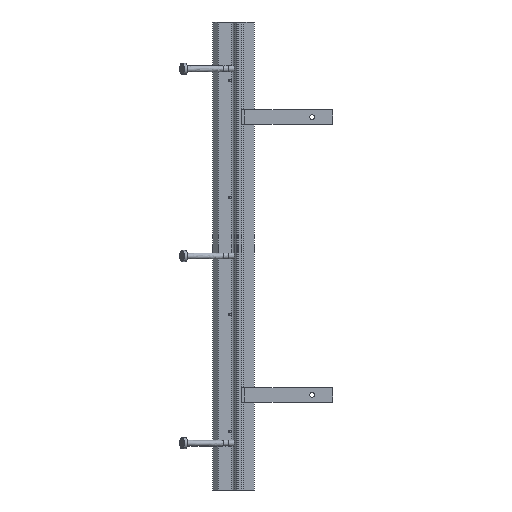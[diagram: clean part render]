
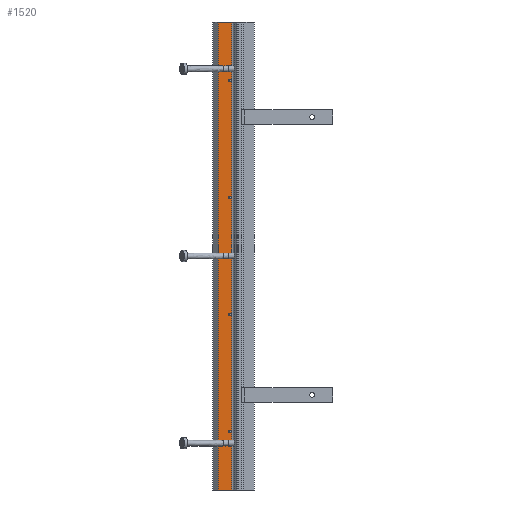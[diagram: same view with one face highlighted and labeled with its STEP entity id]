
A CAD part, left-side view. The second image highlights one B-rep face of the part: STEP entity #1520.
In plain terms, the highlighted planar face has unit normal (-1, 0, 0) as drawn and (1, 0, 0) by its records, which use the part's own axes.
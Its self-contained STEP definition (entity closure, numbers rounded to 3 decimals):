
#108=FACE_BOUND('',#304,.T.);
#109=FACE_BOUND('',#305,.T.);
#110=FACE_BOUND('',#306,.T.);
#111=FACE_BOUND('',#307,.T.);
#144=PLANE('',#1667);
#204=FACE_OUTER_BOUND('',#303,.T.);
#303=EDGE_LOOP('',(#1133,#1134,#1135,#1136));
#304=EDGE_LOOP('',(#1137));
#305=EDGE_LOOP('',(#1138));
#306=EDGE_LOOP('',(#1139));
#307=EDGE_LOOP('',(#1140));
#422=LINE('',#2311,#555);
#435=LINE('',#2361,#568);
#437=LINE('',#2367,#570);
#438=LINE('',#2368,#571);
#555=VECTOR('',#1832,10.);
#568=VECTOR('',#1883,10.);
#570=VECTOR('',#1889,10.);
#571=VECTOR('',#1890,10.);
#690=CIRCLE('',#1656,2.1);
#691=CIRCLE('',#1658,2.1);
#692=CIRCLE('',#1660,2.1);
#693=CIRCLE('',#1662,2.1);
#754=VERTEX_POINT('',#2308);
#755=VERTEX_POINT('',#2310);
#766=VERTEX_POINT('',#2338);
#767=VERTEX_POINT('',#2341);
#768=VERTEX_POINT('',#2344);
#769=VERTEX_POINT('',#2347);
#773=VERTEX_POINT('',#2360);
#775=VERTEX_POINT('',#2366);
#893=EDGE_CURVE('',#754,#755,#422,.T.);
#907=EDGE_CURVE('',#766,#766,#690,.T.);
#908=EDGE_CURVE('',#767,#767,#691,.T.);
#909=EDGE_CURVE('',#768,#768,#692,.T.);
#910=EDGE_CURVE('',#769,#769,#693,.T.);
#916=EDGE_CURVE('',#755,#773,#435,.T.);
#919=EDGE_CURVE('',#754,#775,#437,.T.);
#920=EDGE_CURVE('',#773,#775,#438,.T.);
#1133=ORIENTED_EDGE('',*,*,#916,.F.);
#1134=ORIENTED_EDGE('',*,*,#893,.F.);
#1135=ORIENTED_EDGE('',*,*,#919,.T.);
#1136=ORIENTED_EDGE('',*,*,#920,.F.);
#1137=ORIENTED_EDGE('',*,*,#907,.T.);
#1138=ORIENTED_EDGE('',*,*,#908,.T.);
#1139=ORIENTED_EDGE('',*,*,#909,.T.);
#1140=ORIENTED_EDGE('',*,*,#910,.T.);
#1520=ADVANCED_FACE('',(#204,#108,#109,#110,#111),#144,.T.);
#1656=AXIS2_PLACEMENT_3D('',#2339,#1858,#1859);
#1658=AXIS2_PLACEMENT_3D('',#2342,#1862,#1863);
#1660=AXIS2_PLACEMENT_3D('',#2345,#1866,#1867);
#1662=AXIS2_PLACEMENT_3D('',#2348,#1870,#1871);
#1667=AXIS2_PLACEMENT_3D('',#2365,#1887,#1888);
#1832=DIRECTION('',(0.,1.,0.));
#1858=DIRECTION('center_axis',(-1.,0.,0.));
#1859=DIRECTION('ref_axis',(0.,0.,
1.));
#1862=DIRECTION('center_axis',(-1.,0.,0.));
#1863=DIRECTION('ref_axis',(0.,0.,
1.));
#1866=DIRECTION('center_axis',(-1.,0.,0.));
#1867=DIRECTION('ref_axis',(0.,0.,
1.));
#1870=DIRECTION('center_axis',(-1.,0.,0.));
#1871=DIRECTION('ref_axis',(0.,0.,
1.));
#1883=DIRECTION('',(0.,0.,-1.));
#1887=DIRECTION('center_axis',(1.,0.,0.));
#1888=DIRECTION('ref_axis',(0.,-1.,0.));
#1889=DIRECTION('',(0.,0.,-1.));
#1890=DIRECTION('',(0.,-1.,0.));
#2308=CARTESIAN_POINT('',(11.,-33.,0.));
#2310=CARTESIAN_POINT('',(11.,-10.,0.));
#2311=CARTESIAN_POINT('',(11.,-33.,0.));
#2338=CARTESIAN_POINT('',(11.,-13.,-702.1));
#2339=CARTESIAN_POINT('Origin',(11.,-13.,-700.));
#2341=CARTESIAN_POINT('',(11.,-13.,-502.1));
#2342=CARTESIAN_POINT('Origin',(11.,-13.,-500.));
#2344=CARTESIAN_POINT('',(11.,-13.,-302.1));
#2345=CARTESIAN_POINT('Origin',(11.,-13.,-300.));
#2347=CARTESIAN_POINT('',(11.,-13.,-102.1));
#2348=CARTESIAN_POINT('Origin',(11.,-13.,-100.));
#2360=CARTESIAN_POINT('',(11.,-10.,-800.));
#2361=CARTESIAN_POINT('',(11.,-10.,0.));
#2365=CARTESIAN_POINT('Origin',(11.,-6.,0.));
#2366=CARTESIAN_POINT('',(11.,-33.,-800.));
#2367=CARTESIAN_POINT('',(11.,-33.,0.));
#2368=CARTESIAN_POINT('',(11.,-33.,-800.));
